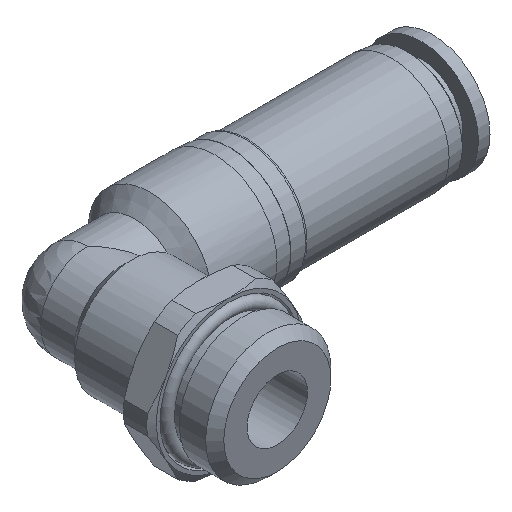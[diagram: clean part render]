
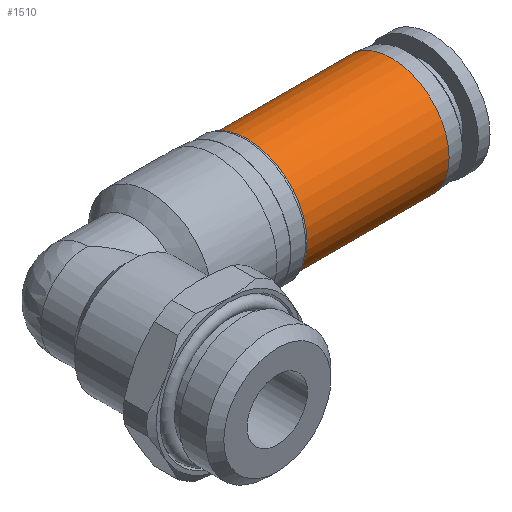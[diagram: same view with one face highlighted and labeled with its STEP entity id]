
A CAD part, isometric view. The second image highlights one B-rep face of the part: STEP entity #1510.
In plain terms, the highlighted cylindrical face has radius 9.5 mm (diameter 19 mm), a full revolution.
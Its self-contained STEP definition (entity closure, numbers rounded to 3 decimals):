
#1468=CARTESIAN_POINT('',(26.6,27.9,0.0));
#1469=VERTEX_POINT('',#1468);
#1470=CARTESIAN_POINT('',(26.6,18.4,0.0));
#1471=DIRECTION('',(1.0,0.0,0.0));
#1472=DIRECTION('',(0.0,1.0,0.0));
#1473=AXIS2_PLACEMENT_3D('',#1470,#1471,#1472);
#1474=CIRCLE('',#1473,9.5);
#1475=EDGE_CURVE('',#1469,#1469,#1474,.T.);
#1491=CARTESIAN_POINT('',(38.45,18.4,0.0));
#1492=DIRECTION('',(1.0,0.0,0.0));
#1493=DIRECTION('',(0.0,1.0,0.0));
#1494=AXIS2_PLACEMENT_3D('',#1491,#1492,#1493);
#1495=CYLINDRICAL_SURFACE('',#1494,9.5);
#1496=CARTESIAN_POINT('',(50.3,27.9,0.0));
#1497=VERTEX_POINT('',#1496);
#1498=CARTESIAN_POINT('',(50.3,18.4,0.0));
#1499=DIRECTION('',(1.0,0.0,0.0));
#1500=DIRECTION('',(0.0,1.0,0.0));
#1501=AXIS2_PLACEMENT_3D('',#1498,#1499,#1500);
#1502=CIRCLE('',#1501,9.5);
#1503=EDGE_CURVE('',#1497,#1497,#1502,.T.);
#1504=ORIENTED_EDGE('',*,*,#1503,.F.);
#1505=EDGE_LOOP('',(#1504));
#1506=FACE_OUTER_BOUND('',#1505,.T.);
#1507=ORIENTED_EDGE('',*,*,#1475,.T.);
#1508=EDGE_LOOP('',(#1507));
#1509=FACE_BOUND('',#1508,.T.);
#1510=ADVANCED_FACE('',(#1506,#1509),#1495,.T.);
